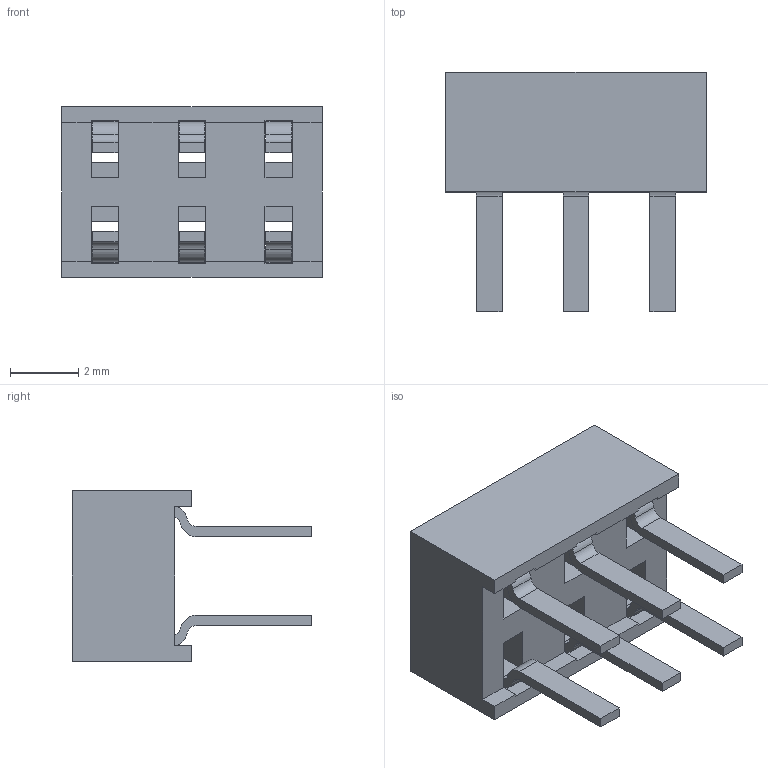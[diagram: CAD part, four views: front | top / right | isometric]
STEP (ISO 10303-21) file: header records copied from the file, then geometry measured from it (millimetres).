
FILE_DESCRIPTION(/* description */ (''),/* implementation_level */ '2;1');
FILE_NAME(/* name */ 'PM254-2-03-Z-3.5-XX-LPT(L7.0) (2.54双排 直针 排母 塑高3.5 防漏锡-HCTL).stp',/* time_stamp */ '2026-10-24T14:21:22+08:00',/* author */ (''),/* organization */ (''),/* preprocessor_version */ 'ST-DEVELOPER v16',/* originating_system */ 'SIEMENS PLM Software NX 10.0',/* authorisation */ '');
FILE_SCHEMA (('AUTOMOTIVE_DESIGN { 1 0 10303 214 3 1 1 1 }'));
Length unit declared in the file: millimetre
Products named in the file (1): PM254-2-N-Z-3.5-XX-LPT(L7.0) (2.54双排 直针 \X2\6392
6BCD\X0\ 塑高3.5 防漏锡-HCTL)
Bounding box: 7.62 x 7 x 5 mm (x, y, z)
Volume: 103.5 mm3; surface area: 320.8 mm2
Topology: 7 solids, 7 shells, 160 faces, 432 edges, 280 vertices
Faces by surface type: plane 136, cylinder 24
Entity records: 5010 total; most frequent: CARTESIAN_POINT 873, ORIENTED_EDGE 864, DIRECTION 802, EDGE_CURVE 432, LINE 384, VECTOR 384, VERTEX_POINT 280, AXIS2_PLACEMENT_3D 209
